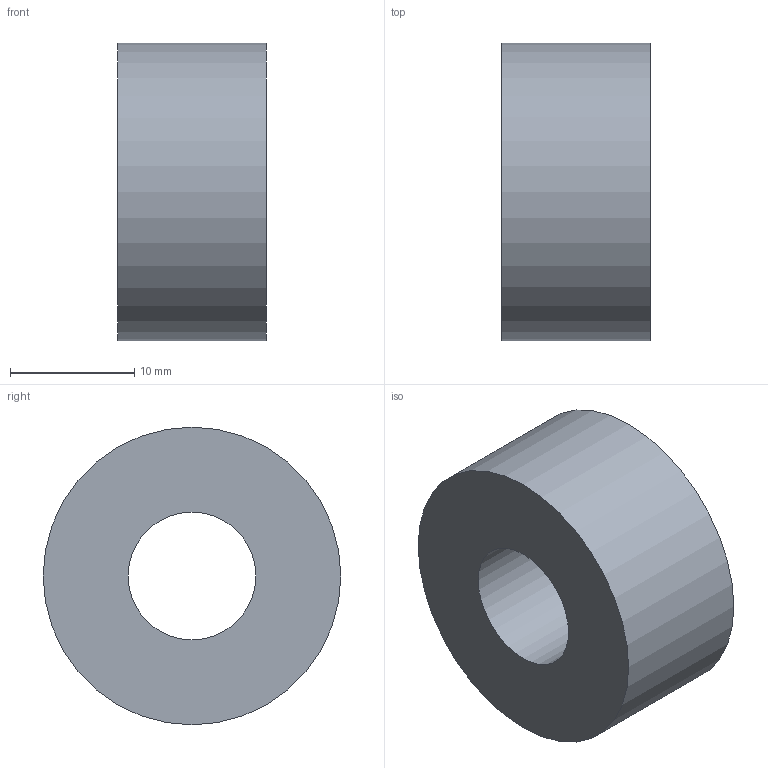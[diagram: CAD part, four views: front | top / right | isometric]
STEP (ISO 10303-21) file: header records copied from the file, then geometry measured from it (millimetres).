
FILE_DESCRIPTION(('Open CASCADE Model'),'2;1');
FILE_NAME('Open CASCADE Shape Model','2026-09-12T16:48:05',('Author'),( 'Open CASCADE'),'Open CASCADE STEP processor 7.9','Open CASCADE 7.9' ,'Unknown');
FILE_SCHEMA(('AUTOMOTIVE_DESIGN { 1 0 10303 214 1 1 1 1 }'));
Length unit declared in the file: millimetre
Products named in the file (1): Open CASCADE STEP translator 7.9 7
Bounding box: 12 x 24 x 24 mm (x, y, z)
Volume: 4262.5 mm3; surface area: 2189.5 mm2
Topology: 1 solids, 1 shells, 8 faces, 12 edges, 8 vertices
Faces by surface type: cylinder 4, plane 4
Full cylindrical faces by diameter (mm): 4.2 x2, 10.3 x1, 24 x1
Entity records: 360 total; most frequent: CARTESIAN_POINT 65, DIRECTION 60, ORIENTED_EDGE 24, PCURVE 24, DEFINITIONAL_REPRESENTATION 24, LINE 20, VECTOR 20, AXIS2_PLACEMENT_3D 17
